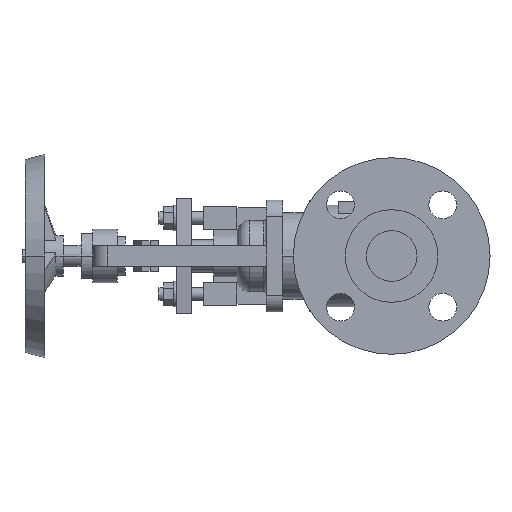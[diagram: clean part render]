
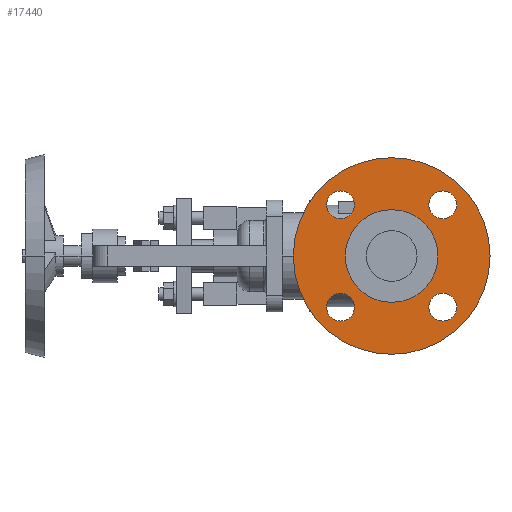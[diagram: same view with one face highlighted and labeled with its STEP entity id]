
A CAD part, left-side view. The second image highlights one B-rep face of the part: STEP entity #17440.
In plain terms, the highlighted planar face has unit normal (-1, 0, 0).
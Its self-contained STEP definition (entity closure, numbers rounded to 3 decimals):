
#4500=CARTESIAN_POINT('',(1.6,0.,77.5));
#4510=VERTEX_POINT('',#4500);
#4670=CARTESIAN_POINT('',(1.6,0.,-77.5));
#4680=VERTEX_POINT('',#4670);
#4710=CARTESIAN_POINT('',(1.6,0.,0.));
#4720=DIRECTION('',(1.,0.,0.));
#4730=DIRECTION('',(0.,0.,-1.));
#4740=AXIS2_PLACEMENT_3D('',#4710,#4720,#4730);
#4750=CIRCLE('',#4740,77.5);
#4760=EDGE_CURVE('',#4510,#4680,#4750,.T.);
#4990=CARTESIAN_POINT('',(1.6,40.305,
-29.305));
#5000=VERTEX_POINT('',#4990);
#5030=CARTESIAN_POINT('',(1.6,40.305,
-40.305));
#5040=DIRECTION('',(-1.,0.,0.));
#5050=DIRECTION('',(0.,0.,-1.));
#5060=AXIS2_PLACEMENT_3D('',#5030,#5040,#5050);
#5070=CIRCLE('',#5060,11.);
#5080=CARTESIAN_POINT('',(1.6,40.305,
-51.305));
#5090=VERTEX_POINT('',#5080);
#5100=EDGE_CURVE('',#5090,#5000,#5070,.T.);
#5480=CARTESIAN_POINT('',(1.6,-40.305,
-51.305));
#5490=VERTEX_POINT('',#5480);
#5520=CARTESIAN_POINT('',(1.6,-40.305,
-40.305));
#5530=DIRECTION('',(-1.,0.,0.));
#5540=DIRECTION('',(0.,0.,-1.));
#5550=AXIS2_PLACEMENT_3D('',#5520,#5530,#5540);
#5560=CIRCLE('',#5550,11.);
#5570=CARTESIAN_POINT('',(1.6,-40.305,
-29.305));
#5580=VERTEX_POINT('',#5570);
#5590=EDGE_CURVE('',#5580,#5490,#5560,.T.);
#5970=CARTESIAN_POINT('',(1.6,40.305,
51.305));
#5980=VERTEX_POINT('',#5970);
#6140=CARTESIAN_POINT('',(1.6,40.305,
29.305));
#6150=VERTEX_POINT('',#6140);
#6180=CARTESIAN_POINT('',(1.6,40.305,
40.305));
#6190=DIRECTION('',(-1.,0.,0.));
#6200=DIRECTION('',(0.,0.,-1.));
#6210=AXIS2_PLACEMENT_3D('',#6180,#6190,#6200);
#6220=CIRCLE('',#6210,11.);
#6230=EDGE_CURVE('',#5980,#6150,#6220,.T.);
#6460=CARTESIAN_POINT('',(1.6,-40.305,
51.305));
#6470=VERTEX_POINT('',#6460);
#6500=CARTESIAN_POINT('',(1.6,-40.305,
40.305));
#6510=DIRECTION('',(-1.,0.,0.));
#6520=DIRECTION('',(0.,0.,-1.));
#6530=AXIS2_PLACEMENT_3D('',#6500,#6510,#6520);
#6540=CIRCLE('',#6530,11.);
#6550=CARTESIAN_POINT('',(1.6,-40.305,
29.305));
#6560=VERTEX_POINT('',#6550);
#6570=EDGE_CURVE('',#6560,#6470,#6540,.T.);
#6950=CARTESIAN_POINT('',(1.6,-36.5,0.));
#6960=VERTEX_POINT('',#6950);
#7120=CARTESIAN_POINT('',(1.6,36.5,0.));
#7130=VERTEX_POINT('',#7120);
#7160=CARTESIAN_POINT('',(1.6,0.,0.));
#7170=DIRECTION('',(-1.,0.,0.));
#7180=DIRECTION('',(0.,1.,0.));
#7190=AXIS2_PLACEMENT_3D('',#7160,#7170,#7180);
#7200=CIRCLE('',#7190,36.5);
#7210=EDGE_CURVE('',#6960,#7130,#7200,.T.);
#17090=CARTESIAN_POINT('',(1.6,57.,0.));
#17100=DIRECTION('',(1.,0.,0.));
#17110=DIRECTION('',(0.,-1.,0.));
#17120=AXIS2_PLACEMENT_3D('',#17090,#17100,#17110);
#17130=PLANE('',#17120);
#17140=EDGE_CURVE('',#7130,#6960,#7200,.T.);
#17150=ORIENTED_EDGE('',*,*,#17140,.F.);
#17160=ORIENTED_EDGE('',*,*,#7210,.F.);
#17170=EDGE_LOOP('',(#17160,#17150));
#17180=FACE_BOUND('',#17170,.T.);
#17190=EDGE_CURVE('',#4680,#4510,#4750,.T.);
#17200=ORIENTED_EDGE('',*,*,#17190,.F.);
#17210=ORIENTED_EDGE('',*,*,#4760,.F.);
#17220=EDGE_LOOP('',(#17210,#17200));
#17230=FACE_OUTER_BOUND('',#17220,.T.);
#17240=ORIENTED_EDGE('',*,*,#5100,.F.);
#17250=EDGE_CURVE('',#5000,#5090,#5070,.T.);
#17260=ORIENTED_EDGE('',*,*,#17250,.F.);
#17270=EDGE_LOOP('',(#17260,#17240));
#17280=FACE_BOUND('',#17270,.T.);
#17290=ORIENTED_EDGE('',*,*,#5590,.F.);
#17300=EDGE_CURVE('',#5490,#5580,#5560,.T.);
#17310=ORIENTED_EDGE('',*,*,#17300,.F.);
#17320=EDGE_LOOP('',(#17310,#17290));
#17330=FACE_BOUND('',#17320,.T.);
#17340=EDGE_CURVE('',#6150,#5980,#6220,.T.);
#17350=ORIENTED_EDGE('',*,*,#17340,.F.);
#17360=ORIENTED_EDGE('',*,*,#6230,.F.);
#17370=EDGE_LOOP('',(#17360,#17350));
#17380=FACE_BOUND('',#17370,.T.);
#17390=ORIENTED_EDGE('',*,*,#6570,.F.);
#17400=EDGE_CURVE('',#6470,#6560,#6540,.T.);
#17410=ORIENTED_EDGE('',*,*,#17400,.F.);
#17420=EDGE_LOOP('',(#17410,#17390));
#17430=FACE_BOUND('',#17420,.T.);
#17440=ADVANCED_FACE('',(#17180,#17230,#17280,#17330,#17380,#17430),
#17130,.F.);
